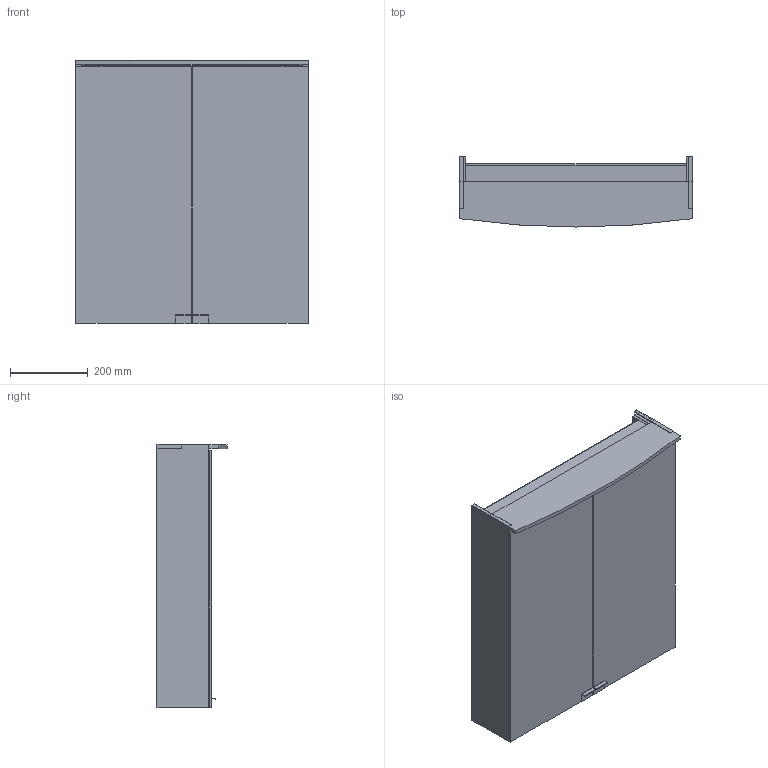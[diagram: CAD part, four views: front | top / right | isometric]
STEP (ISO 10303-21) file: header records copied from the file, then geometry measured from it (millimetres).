
FILE_DESCRIPTION(/* description */ (''),/* implementation_level */ '2;1');
FILE_NAME(/* name */ 'C:\Planerdaten\Export PLA\500.273.00.1\stp\500273.stp',/* time_stamp */ '2020-01-13T15:46:31+01:00',/* author */ ('JANAN'),/* organization */ (''),/* preprocessor_version */ 'ST-DEVELOPER v16.13',/* originating_system */ 'Autodesk Inventor 2018',/* authorisation */ '');
FILE_SCHEMA (('AUTOMOTIVE_DESIGN { 1 0 10303 214 3 1 1 }'));
Length unit declared in the file: millimetre
Products named in the file (1): SpglSchrk Ge+OptB B60 m/Bel 2-Tür w
Bounding box: 600 x 180 x 677 mm (x, y, z)
Volume: 10732254.8 mm3; surface area: 2735636.7 mm2
Topology: 3 solids, 3 shells, 90 faces, 250 edges, 166 vertices
Faces by surface type: plane 89, cylinder 1
Entity records: 2965 total; most frequent: CARTESIAN_POINT 507, ORIENTED_EDGE 500, DIRECTION 434, EDGE_CURVE 250, LINE 248, VECTOR 248, VERTEX_POINT 166, STYLED_ITEM 93
